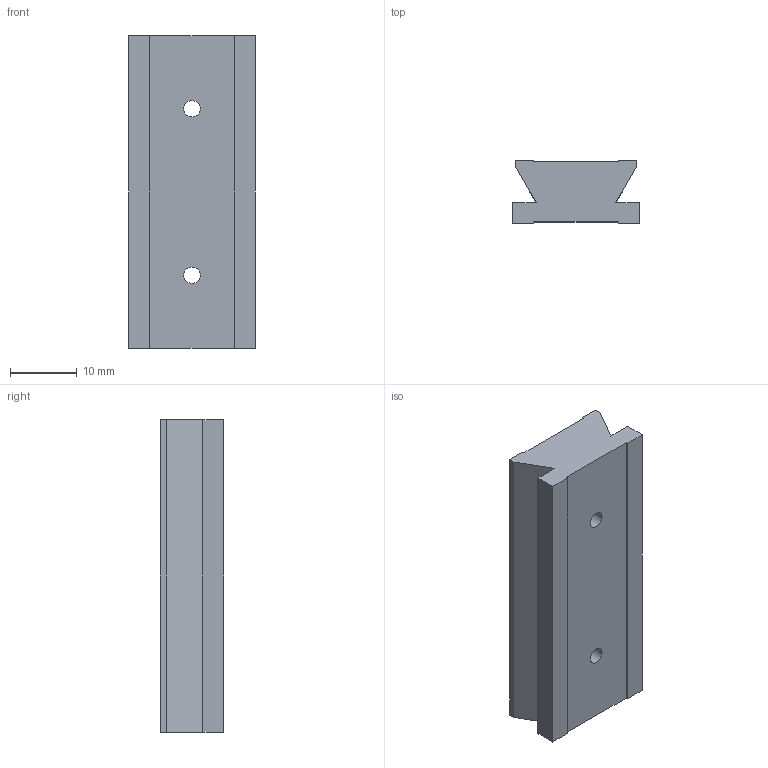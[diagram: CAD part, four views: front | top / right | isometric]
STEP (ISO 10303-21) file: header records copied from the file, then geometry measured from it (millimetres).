
FILE_DESCRIPTION(/* description */ (''),/* implementation_level */ '2;1');
FILE_NAME(/* name */ 'C:\Users\strothej\Documents\ActualDocuments\MicroscopeParts\TwoPhotonSystem\ScanningMechanics\v32\Drawings\Collection_Filter_Dovetail.stp',/* time_stamp */ '2017-07-24T11:24:57-07:00',/* author */ ('strothej'),/* organization */ (''),/* preprocessor_version */ 'ST-DEVELOPER v16.1',/* originating_system */ 'Autodesk Inventor 2016',/* authorisation */ '');
FILE_SCHEMA (('AUTOMOTIVE_DESIGN { 1 0 10303 214 3 1 1 }'));
Length unit declared in the file: millimetre
Products named in the file (1): Collection_Filter_Dovetail
Bounding box: 19.05 x 9.53 x 47 mm (x, y, z)
Volume: 7081 mm3; surface area: 3536.8 mm2
Topology: 1 solids, 1 shells, 22 faces, 62 edges, 42 vertices
Faces by surface type: plane 20, cylinder 2
Full cylindrical faces by diameter (mm): 2.464 x2
Entity records: 710 total; most frequent: CARTESIAN_POINT 121, ORIENTED_EDGE 116, DIRECTION 108, EDGE_CURVE 58, LINE 54, VECTOR 54, VERTEX_POINT 40, EDGE_LOOP 28
